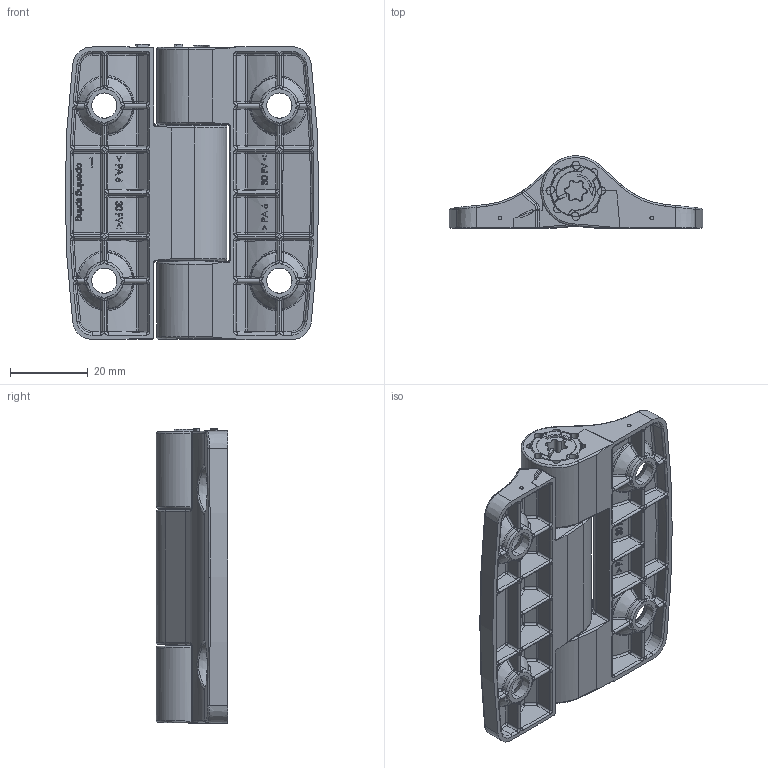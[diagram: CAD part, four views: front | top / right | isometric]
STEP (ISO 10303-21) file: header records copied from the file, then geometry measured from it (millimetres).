
FILE_DESCRIPTION (( 'STEP AP203' ), '1' );
FILE_NAME ('5413552.STEP', '2022-06-01T08:25:56', ( '' ), ( '' ), 'SwSTEP 2.0', 'SolidWorks 2019', '' );
FILE_SCHEMA (( 'CONFIG_CONTROL_DESIGN' ));
Length unit declared in the file: millimetre
Products named in the file (5): 5413552; Marketing - 36600142_Coté male ouvrant; Marketing - 36600141_Coté femelle; Marketing - 36600143_Tube ouvrant; Marketing - 36600144_Bouchon ouvrant
Assembly tree (4 placements, depth 2):
  5413552
    Marketing - 36600142_Coté male ouvrant
    Marketing - 36600141_Coté femelle
    Marketing - 36600143_Tube ouvrant
    Marketing - 36600144_Bouchon ouvrant
Bounding box: 65.24 x 18.5 x 75.92 mm (x, y, z)
Volume: 27084.4 mm3; surface area: 26145.2 mm2
Topology: 4 solids, 4 shells, 1823 faces, 4435 edges, 2634 vertices
Faces by surface type: bspline 887, plane 416, cylinder 379, cone 133, torus 8
Entity records: 97658 total; most frequent: CARTESIAN_POINT 61883, ORIENTED_EDGE 8778, DIRECTION 5350, EDGE_CURVE 4389, VERTEX_POINT 2634, AXIS2_PLACEMENT_3D 2013, EDGE_LOOP 1897, ADVANCED_FACE 1823
